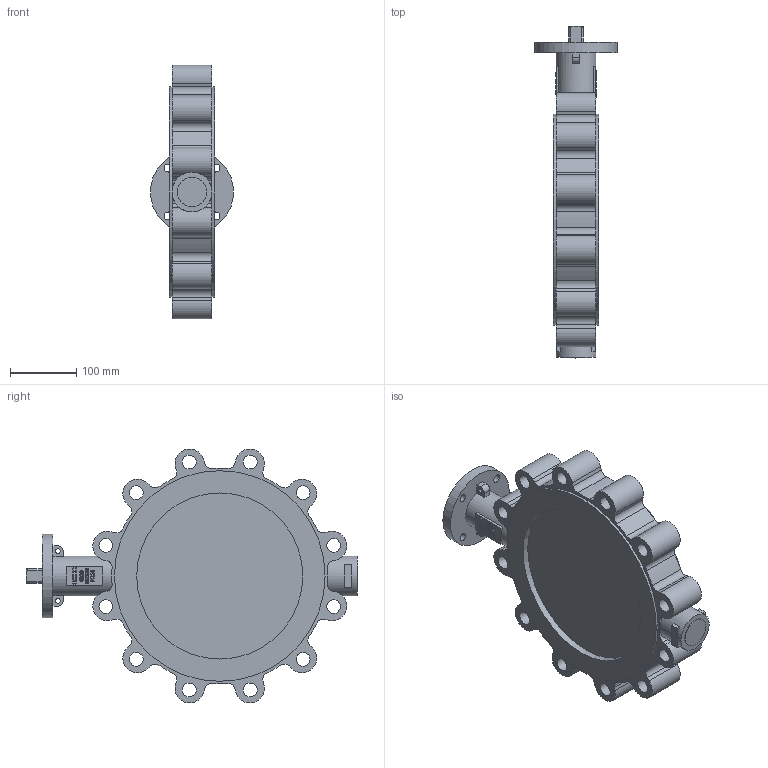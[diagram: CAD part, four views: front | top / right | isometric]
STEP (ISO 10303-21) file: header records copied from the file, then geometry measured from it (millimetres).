
FILE_DESCRIPTION(/* description */ (''),/* implementation_level */ '2;1');
FILE_NAME(/* name */ '6820-DN250-PN16-EPDM - 13548565.stp',/* time_stamp */ '2024-09-06T09:17:07+02:00',/* author */ ('roger.thijssen'),/* organization */ (''),/* preprocessor_version */ 'ST-DEVELOPER v20',/* originating_system */ 'Autodesk Inventor 2024',/* authorisation */ '');
FILE_SCHEMA (('AUTOMOTIVE_DESIGN { 1 0 10303 214 3 1 1 }'));
Length unit declared in the file: millimetre
Products named in the file (1): 6820-DN250-PN16
Bounding box: 125 x 499.5 x 381.91 mm (x, y, z)
Volume: 5937873.8 mm3; surface area: 408138.5 mm2
Topology: 1 solids, 1 shells, 519 faces, 1409 edges, 933 vertices
Faces by surface type: plane 261, bspline 136, cylinder 117, cone 5
Full cylindrical faces by diameter (mm): 4.917 x1, 7 x2, 12 x4, 20.752 x12, 44 x1, 60 x2, 125 x1, 250 x2, 317 x2
Entity records: 18334 total; most frequent: CARTESIAN_POINT 5323, ORIENTED_EDGE 2816, DIRECTION 2128, EDGE_CURVE 1408, VERTEX_POINT 933, LINE 856, VECTOR 856, AXIS2_PLACEMENT_3D 636
